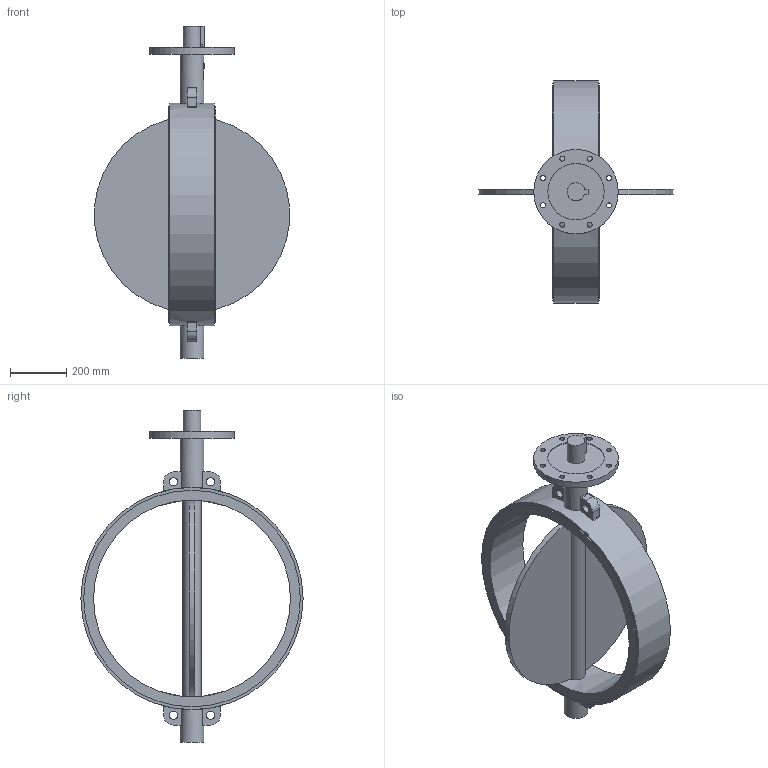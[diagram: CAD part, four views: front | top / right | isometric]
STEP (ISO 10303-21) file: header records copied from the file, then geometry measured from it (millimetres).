
FILE_DESCRIPTION(('STEP AP203'), '1');
FILE_NAME('青蜮铕 017W.YS_DN700_PN16', '', ('UNSPECIFIED'), ('UNSPECIFIED'), 'ASCON STEP Converter 1.6', 'ASCON Math Kernel', '');
FILE_SCHEMA(('CONFIG_CONTROL_DESIGN'));
Length unit declared in the file: millimetre
Bounding box: 692.36 x 790 x 1180 mm (x, y, z)
Volume: 30172107.7 mm3; surface area: 2098039.6 mm2
Topology: 1 solids, 1 shells, 93 faces, 232 edges, 154 vertices
Faces by surface type: plane 48, cylinder 41, torus 4
Full cylindrical faces by diameter (mm): 18 x8, 29.211 x4, 63.4 x1, 65 x1, 85 x2, 200 x1, 300 x1, 700 x1, 770 x2, 790 x1
Entity records: 4560 total; most frequent: CARTESIAN_POINT 1521, DIRECTION 476, ORIENTED_EDGE 420, EDGE_CURVE 210, AXIS2_PLACEMENT_3D 192, EDGE_LOOP 156, VERTEX_POINT 154, FACE_BOUND 115
